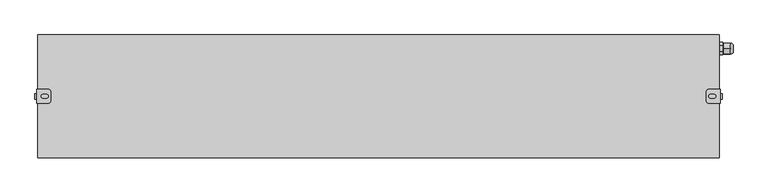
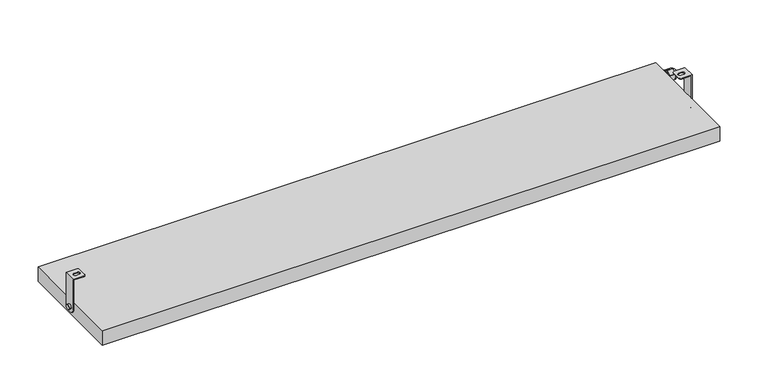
"""IFC4 building model written with IfcOpenShell, lengths in millimetres: light fixture geometry, GENILED_Светильник светодиодный_Titan Advanced : Titan Advanced 1000x180x25 100Вт IP66 Опал."""

from ifc_helpers import new_model, si_unit, point, frame, frame_2d, origin, origin_with_axes, place, context, project, spatial, polyline, circle_curve, ellipse_curve, trimmed, segment, composite_curve, outline, extrude, source, transform, mapped, element, save
from ifc_brep_helpers import plane_surface, cylinder_surface, revolved_surface, advanced_brep


def light_fixture_f0c51d83(model_context):
    return source(origin(), model_context, "Body", "SolidModel", [
        advanced_brep(
        [(-484.0, 10.0, 64.5), (-501.0, 10.0, 64.5), (-501.0, -10.0, 64.5), (-484.0, -10.0, 64.5), (-481.0, -7.0, 64.5), (-481.0, 7.0, 64.5), (-487.0, 2.75, 64.5), (-487.0, -2.75, 64.5), (-492.0, -2.75, 64.5), (-492.0, 2.75, 64.5), (-484.0, -10.0, 63.5), (-500.0, -10.0, 63.5), (-500.0, 10.0, 63.5), (-484.0, 10.0, 63.5), (-481.0, 7.0, 63.5), (-481.0, -7.0, 63.5), (-487.0, 2.75, 63.5), (-492.0, 2.75, 63.5), (-492.0, -2.75, 63.5), (-487.0, -2.75, 63.5), (-501.0, -10.0, 12.5), (-500.0, -10.0, 12.5), (-501.0, 10.0, 12.5), (-501.0, 2.0, 4.5), (-501.0, -2.0, 4.5), (-501.0, 4.0, 12.5), (-501.0, -4.0, 12.5), (-500.0, 10.0, 12.5), (-500.0, -2.0, 4.5), (-500.0, 2.0, 4.5), (-504.0, -4.0, 12.5), (-504.0, 4.0, 12.5)],
        [
            (0, 1),
            (1, 2),
            (2, 3),
            (3, 4, circle_curve(frame((-484.0, -7.0, 64.5), z_axis=(0.0, 0.0, 1.0), x_axis=(-1.0, 0.0, 0.0)), 3.0)),
            (4, 5),
            (5, 0, circle_curve(frame((-484.0, 7.0, 64.5), z_axis=(0.0, 0.0, 1.0), x_axis=(-1.0, 0.0, 0.0)), 3.0)),
            (6, 7, circle_curve(frame((-487.0, 0.0, 64.5), z_axis=(0.0, 0.0, -1.0), x_axis=(-1.0, 0.0, 0.0)), 2.75)),
            (7, 8),
            (8, 9, circle_curve(frame((-492.0, 0.0, 64.5), z_axis=(0.0, 0.0, -1.0), x_axis=(-1.0, 0.0, 0.0)), 2.75)),
            (9, 6),
            (10, 11),
            (11, 12),
            (12, 13),
            (13, 14, circle_curve(frame((-484.0, 7.0, 63.5), z_axis=(0.0, 0.0, -1.0), x_axis=(-1.0, 0.0, 0.0)), 3.0)),
            (14, 15),
            (15, 10, circle_curve(frame((-484.0, -7.0, 63.5), z_axis=(0.0, 0.0, -1.0), x_axis=(-1.0, 0.0, 0.0)), 3.0)),
            (16, 17),
            (17, 18, circle_curve(frame((-492.0, 0.0, 63.5), z_axis=(0.0, 0.0, 1.0), x_axis=(-1.0, 0.0, 0.0)), 2.75)),
            (18, 19),
            (19, 16, circle_curve(frame((-487.0, 0.0, 63.5), z_axis=(0.0, 0.0, 1.0), x_axis=(-1.0, 0.0, 0.0)), 2.75)),
            (5, 14),
            (13, 0),
            (4, 15),
            (3, 10),
            (2, 20),
            (20, 21),
            (21, 11),
            (1, 22),
            (22, 23, circle_curve(frame((-501.0, 2.0, 12.5), z_axis=(-1.0, 0.0, 0.0), x_axis=(0.0, 1.0, 0.0)), 8.0)),
            (23, 24),
            (24, 20, circle_curve(frame((-501.0, -2.0, 12.5), z_axis=(-1.0, 0.0, 0.0), x_axis=(0.0, 1.0, 0.0)), 8.0)),
            (25, 26, circle_curve(frame((-501.0, 0.0, 12.5), z_axis=(1.0, 0.0, 0.0), x_axis=(0.0, 1.0, 0.0)), 4.0)),
            (26, 25, circle_curve(frame((-501.0, 0.0, 12.5), z_axis=(1.0, 0.0, 0.0), x_axis=(0.0, 1.0, 0.0)), 4.0)),
            (12, 27),
            (27, 22),
            (9, 17),
            (16, 6),
            (8, 18),
            (7, 19),
            (21, 28, circle_curve(frame((-500.0, -2.0, 12.5), z_axis=(1.0, 0.0, 0.0), x_axis=(0.0, 1.0, 0.0)), 8.0)),
            (28, 29),
            (29, 27, circle_curve(frame((-500.0, 2.0, 12.5), z_axis=(1.0, 0.0, 0.0), x_axis=(0.0, 1.0, 0.0)), 8.0)),
            (24, 28),
            (23, 29),
            (30, 31, circle_curve(frame((-504.0, 0.0, 12.5), z_axis=(-1.0, 0.0, 0.0), x_axis=(0.0, 1.0, 0.0)), 4.0)),
            (31, 30, circle_curve(frame((-504.0, 0.0, 12.5), z_axis=(-1.0, 0.0, 0.0), x_axis=(0.0, 1.0, 0.0)), 4.0)),
            (31, 25),
            (26, 30),
        ],
        [
            plane_surface(frame((-487.0, 7.0, 64.5), z_axis=(0.0, 0.0, 1.0), x_axis=(0.0, 1.0, 0.0))),
            plane_surface(frame((-487.0, 7.0, 63.5), z_axis=(0.0, 0.0, -1.0), x_axis=(0.0, -1.0, 0.0))),
            cylinder_surface(frame((-484.0, 7.0, 63.5), z_axis=(0.0, 0.0, 1.0), x_axis=(-1.0, 0.0, 0.0)), 3.0),
            plane_surface(frame((-481.0, 7.0, 64.5), z_axis=(1.0, 0.0, 0.0), x_axis=(0.0, 0.0, -1.0))),
            cylinder_surface(frame((-484.0, -7.0, 63.5), z_axis=(0.0, 0.0, 1.0), x_axis=(-1.0, 0.0, 0.0)), 3.0),
            plane_surface(frame((-484.0, -10.0, 64.5), z_axis=(0.0, -1.0, 0.0), x_axis=(0.0, 0.0, -1.0))),
            plane_surface(frame((-501.0, -10.0, 64.5), z_axis=(-1.0, 0.0, 0.0), x_axis=(0.0, 0.0, -1.0))),
            plane_surface(frame((-501.0, 10.0, 64.5), z_axis=(0.0, 1.0, 0.0), x_axis=(0.0, 0.0, -1.0))),
            plane_surface(frame((-487.0, 2.75, 64.5), z_axis=(0.0, -1.0, 0.0), x_axis=(0.0, 0.0, -1.0))),
            revolved_surface(polyline([(-494.75, 0.0, 63.5), (-494.75, 0.0, 64.5)]), (-492.0, 0.0, 12.5), (0.0, 0.0, -1.0)),
            plane_surface(frame((-492.0, -2.75, 64.5), z_axis=(0.0, 1.0, 0.0), x_axis=(0.0, 0.0, -1.0))),
            revolved_surface(polyline([(-489.75, 0.0, 63.5), (-489.75, 0.0, 64.5)]), (-487.0, 0.0, 12.5), (0.0, 0.0, -1.0)),
            plane_surface(frame((-500.0, -10.0, 64.5), z_axis=(1.0, 0.0, 0.0), x_axis=(0.0, 1.0, 0.0))),
            cylinder_surface(frame((-500.0, -2.0, 12.5), z_axis=(-1.0, 0.0, 0.0), x_axis=(0.0, 1.0, 0.0)), 8.0),
            plane_surface(frame((-501.0, -2.0, 4.5), z_axis=(0.0, 0.0, -1.0), x_axis=(1.0, 0.0, 0.0))),
            cylinder_surface(frame((-500.0, 2.0, 12.5), z_axis=(-1.0, 0.0, 0.0), x_axis=(0.0, 1.0, 0.0)), 8.0),
            plane_surface(frame((-504.0, 4.0, 12.5), z_axis=(-1.0, 0.0, 0.0), x_axis=(0.0, 0.0, 1.0))),
            cylinder_surface(frame((-501.0, 0.0, 12.5), z_axis=(-1.0, 0.0, 0.0), x_axis=(0.0, 1.0, 0.0)), 4.0),
        ],
        [
            (0, [[1, 2, 3, 4, 5, 6], [7, 8, 9, 10]]),
            (1, [[11, 12, 13, 14, 15, 16], [17, 18, 19, 20]]),
            (2, [[21, -14, 22, -6]]),
            (3, [[23, -15, -21, -5]]),
            (4, [[24, -16, -23, -4]]),
            (5, [[-3, 25, 26, 27, -11, -24]]),
            (6, [[28, 29, 30, 31, -25, -2], [32, 33]]),
            (7, [[-13, 34, 35, -28, -1, -22]]),
            (8, [[36, -17, 37, -10]]),
            (9, [[38, -18, -36, -9]]),
            (10, [[39, -19, -38, -8]]),
            (11, [[-37, -20, -39, -7]]),
            (12, [[-34, -12, -27, 40, 41, 42]]),
            (13, [[43, -40, -26, -31]]),
            (14, [[44, -41, -43, -30]]),
            (15, [[-35, -42, -44, -29]]),
            (16, [[45, 46]]),
            (17, [[47, -33, 48, -46]]),
            (17, [[-48, -32, -47, -45]]),
        ],
    ),
        advanced_brep(
        [(484.0, 10.0, 64.5), (481.0, 7.0, 64.5), (481.0, -7.0, 64.5), (484.0, -10.0, 64.5), (501.0, -10.0, 64.5), (501.0, 10.0, 64.5), (487.0, 2.75, 64.5), (492.0, 2.75, 64.5), (492.0, -2.75, 64.5), (487.0, -2.75, 64.5), (484.0, -10.0, 63.5), (481.0, -7.0, 63.5), (481.0, 7.0, 63.5), (484.0, 10.0, 63.5), (500.0, 10.0, 63.5), (500.0, -10.0, 63.5), (487.0, 2.75, 63.5), (487.0, -2.75, 63.5), (492.0, -2.75, 63.5), (492.0, 2.75, 63.5), (500.0, -10.0, 12.5), (501.0, -10.0, 12.5), (501.0, -2.0, 4.5), (501.0, 2.0, 4.5), (501.0, 10.0, 12.5), (501.0, 4.0, 12.5), (501.0, -4.0, 12.5), (500.0, 10.0, 12.5), (500.0, 2.0, 4.5), (500.0, -2.0, 4.5), (504.0, -4.0, 12.5), (504.0, 4.0, 12.5)],
        [
            (0, 1, circle_curve(frame((484.0, 7.0, 64.5), z_axis=(0.0, 0.0, 1.0), x_axis=(1.0, 0.0, 0.0)), 3.0)),
            (1, 2),
            (2, 3, circle_curve(frame((484.0, -7.0, 64.5), z_axis=(0.0, 0.0, 1.0), x_axis=(1.0, 0.0, 0.0)), 3.0)),
            (3, 4),
            (4, 5),
            (5, 0),
            (6, 7),
            (7, 8, circle_curve(frame((492.0, 0.0, 64.5), z_axis=(0.0, 0.0, -1.0), x_axis=(1.0, 0.0, 0.0)), 2.75)),
            (8, 9),
            (9, 6, circle_curve(frame((487.0, 0.0, 64.5), z_axis=(0.0, 0.0, -1.0), x_axis=(1.0, 0.0, 0.0)), 2.75)),
            (10, 11, circle_curve(frame((484.0, -7.0, 63.5), z_axis=(0.0, 0.0, -1.0), x_axis=(1.0, 0.0, 0.0)), 3.0)),
            (11, 12),
            (12, 13, circle_curve(frame((484.0, 7.0, 63.5), z_axis=(0.0, 0.0, -1.0), x_axis=(1.0, 0.0, 0.0)), 3.0)),
            (13, 14),
            (14, 15),
            (15, 10),
            (16, 17, circle_curve(frame((487.0, 0.0, 63.5), z_axis=(0.0, 0.0, 1.0), x_axis=(1.0, 0.0, 0.0)), 2.75)),
            (17, 18),
            (18, 19, circle_curve(frame((492.0, 0.0, 63.5), z_axis=(0.0, 0.0, 1.0), x_axis=(1.0, 0.0, 0.0)), 2.75)),
            (19, 16),
            (0, 13),
            (12, 1),
            (11, 2),
            (10, 3),
            (15, 20),
            (20, 21),
            (21, 4),
            (21, 22, circle_curve(frame((501.0, -2.0, 12.5), z_axis=(1.0, 0.0, 0.0), x_axis=(0.0, 1.0, 0.0)), 8.0)),
            (22, 23),
            (23, 24, circle_curve(frame((501.0, 2.0, 12.5), z_axis=(1.0, 0.0, 0.0), x_axis=(0.0, 1.0, 0.0)), 8.0)),
            (24, 5),
            (25, 26, circle_curve(frame((501.0, 0.0, 12.5), z_axis=(-1.0, 0.0, 0.0), x_axis=(0.0, 1.0, 0.0)), 4.0)),
            (26, 25, circle_curve(frame((501.0, 0.0, 12.5), z_axis=(-1.0, 0.0, 0.0), x_axis=(0.0, 1.0, 0.0)), 4.0)),
            (24, 27),
            (27, 14),
            (6, 16),
            (19, 7),
            (18, 8),
            (17, 9),
            (27, 28, circle_curve(frame((500.0, 2.0, 12.5), z_axis=(-1.0, 0.0, 0.0), x_axis=(0.0, 1.0, 0.0)), 8.0)),
            (28, 29),
            (29, 20, circle_curve(frame((500.0, -2.0, 12.5), z_axis=(-1.0, 0.0, 0.0), x_axis=(0.0, 1.0, 0.0)), 8.0)),
            (29, 22),
            (28, 23),
            (30, 31, circle_curve(frame((504.0, 0.0, 12.5), z_axis=(1.0, 0.0, 0.0), x_axis=(0.0, 1.0, 0.0)), 4.0)),
            (31, 30, circle_curve(frame((504.0, 0.0, 12.5), z_axis=(1.0, 0.0, 0.0), x_axis=(0.0, 1.0, 0.0)), 4.0)),
            (30, 26),
            (25, 31),
        ],
        [
            plane_surface(frame((487.0, 7.0, 64.5), z_axis=(0.0, 0.0, 1.0), x_axis=(0.0, 1.0, 0.0))),
            plane_surface(frame((487.0, 7.0, 63.5), z_axis=(0.0, 0.0, -1.0), x_axis=(0.0, -1.0, 0.0))),
            cylinder_surface(frame((484.0, 7.0, 63.5), z_axis=(0.0, 0.0, 1.0), x_axis=(1.0, 0.0, 0.0)), 3.0),
            plane_surface(frame((481.0, 7.0, 64.5), z_axis=(-1.0, 0.0, 0.0), x_axis=(0.0, 0.0, -1.0))),
            cylinder_surface(frame((484.0, -7.0, 63.5), z_axis=(0.0, 0.0, 1.0), x_axis=(1.0, 0.0, 0.0)), 3.0),
            plane_surface(frame((484.0, -10.0, 64.5), z_axis=(0.0, -1.0, 0.0), x_axis=(0.0, 0.0, -1.0))),
            plane_surface(frame((501.0, -10.0, 64.5), z_axis=(1.0, 0.0, 0.0), x_axis=(0.0, 0.0, -1.0))),
            plane_surface(frame((501.0, 10.0, 64.5), z_axis=(0.0, 1.0, 0.0), x_axis=(0.0, 0.0, -1.0))),
            plane_surface(frame((487.0, 2.75, 64.5), z_axis=(0.0, -1.0, 0.0), x_axis=(0.0, 0.0, -1.0))),
            revolved_surface(polyline([(494.75, 0.0, 63.5), (494.75, 0.0, 64.5)]), (492.0, 0.0, 12.5), (0.0, 0.0, -1.0)),
            plane_surface(frame((492.0, -2.75, 64.5), z_axis=(0.0, 1.0, 0.0), x_axis=(0.0, 0.0, -1.0))),
            revolved_surface(polyline([(489.75, 0.0, 63.5), (489.75, 0.0, 64.5)]), (487.0, 0.0, 12.5), (0.0, 0.0, -1.0)),
            plane_surface(frame((500.0, -10.0, 64.5), z_axis=(-1.0, 0.0, 0.0), x_axis=(0.0, 1.0, 0.0))),
            cylinder_surface(frame((500.0, -2.0, 12.5), z_axis=(1.0, 0.0, 0.0), x_axis=(0.0, 1.0, 0.0)), 8.0),
            plane_surface(frame((501.0, -2.0, 4.5), z_axis=(0.0, 0.0, -1.0), x_axis=(-1.0, 0.0, 0.0))),
            cylinder_surface(frame((500.0, 2.0, 12.5), z_axis=(1.0, 0.0, 0.0), x_axis=(0.0, 1.0, 0.0)), 8.0),
            plane_surface(frame((504.0, 4.0, 12.5), z_axis=(1.0, 0.0, 0.0), x_axis=(0.0, 0.0, 1.0))),
            cylinder_surface(frame((501.0, 0.0, 12.5), z_axis=(1.0, 0.0, 0.0), x_axis=(0.0, 1.0, 0.0)), 4.0),
        ],
        [
            (0, [[1, 2, 3, 4, 5, 6], [7, 8, 9, 10]]),
            (1, [[11, 12, 13, 14, 15, 16], [17, 18, 19, 20]]),
            (2, [[-1, 21, -13, 22]]),
            (3, [[-2, -22, -12, 23]]),
            (4, [[-3, -23, -11, 24]]),
            (5, [[-24, -16, 25, 26, 27, -4]]),
            (6, [[-5, -27, 28, 29, 30, 31], [32, 33]]),
            (7, [[-21, -6, -31, 34, 35, -14]]),
            (8, [[-7, 36, -20, 37]]),
            (9, [[-8, -37, -19, 38]]),
            (10, [[-9, -38, -18, 39]]),
            (11, [[-10, -39, -17, -36]]),
            (12, [[40, 41, 42, -25, -15, -35]]),
            (13, [[-28, -26, -42, 43]]),
            (14, [[-29, -43, -41, 44]]),
            (15, [[-30, -44, -40, -34]]),
            (16, [[45, 46]]),
            (17, [[-45, 47, -32, 48]]),
            (17, [[-46, -48, -33, -47]]),
        ],
    ),
        advanced_brep(
        [(520.0120269, 64.15, 12.5), (520.0120269, 75.85, 12.5), (520.0120269, 73.5, 12.5), (520.0120269, 66.5, 12.5), (516.0120269, 62.0, 12.5), (516.0120269, 66.0, 5.5717968), (516.0120269, 74.0, 5.5717968), (516.0120269, 78.0, 12.5), (516.0120269, 74.0, 19.4282032), (516.0120269, 66.0, 19.4282032), (516.0120269, 73.5, 12.5), (516.0120269, 66.5, 12.5), (516.0120269, 62.0, 8.3768944), (516.0120269, 62.4292858, 7.6333496), (516.0120269, 69.5707142, 3.510244), (516.0120269, 70.4292858, 3.510244), (516.0120269, 77.5707142, 7.6333496), (516.0120269, 78.0, 8.3768944), (516.0120269, 78.0, 16.6231056), (516.0120269, 77.5707142, 17.3666504), (516.0120269, 70.4292858, 21.489756), (516.0120269, 69.5707142, 21.489756), (516.0120269, 62.4292858, 17.3666504), (516.0120269, 62.0, 16.6231056), (506.6, 69.5707142, 3.510244), (506.6, 62.4292858, 7.6333496), (506.6, 62.0, 8.3768944), (506.6, 62.0, 16.6231056), (506.6, 62.4292858, 17.3666504), (506.6, 69.5707142, 21.489756), (506.6, 70.4292858, 21.489756), (506.6, 77.5707142, 17.3666504), (506.6, 78.0, 16.6231056), (506.6, 78.0, 8.3768944), (506.6, 77.5707142, 7.6333496), (506.6, 70.4292858, 3.510244), (506.6, 77.25, 12.5), (506.6, 62.75, 12.5), (504.6, 77.25, 12.5), (504.6, 62.75, 12.5), (504.6, 78.989756, 12.9292858), (504.6, 74.8666504, 20.0707142), (504.6, 74.1231056, 20.5), (504.6, 65.8768944, 20.5), (504.6, 65.1333496, 20.0707142), (504.6, 61.010244, 12.9292858), (504.6, 61.0, 12.5), (504.6, 61.010244, 12.0707142), (504.6, 65.1333496, 4.9292858), (504.6, 65.8768944, 4.5), (504.6, 74.1231056, 4.5), (504.6, 74.8666504, 4.9292858), (504.6, 78.989756, 12.0707142), (504.6, 79.0, 12.5), (500.0, 78.989756, 12.0707142), (500.0, 74.8666504, 4.9292858), (500.0, 74.1231056, 4.5), (500.0, 65.8768944, 4.5), (500.0, 65.1333496, 4.9292858), (500.0, 61.010244, 12.0707142), (500.0, 61.0, 12.5), (500.0, 61.010244, 12.9292858), (500.0, 65.1333496, 20.0707142), (500.0, 65.8768944, 20.5), (500.0, 74.1231056, 20.5), (500.0, 74.8666504, 20.0707142), (500.0, 78.989756, 12.9292858), (500.0, 79.0, 12.5)],
        [
            (0, 1, circle_curve(frame((520.0120269, 70.0, 12.5), z_axis=(1.0, 0.0, 0.0), x_axis=(0.0, 1.0, 0.0)), 5.85)),
            (1, 2),
            (2, 3, circle_curve(frame((520.0120269, 70.0, 12.5), z_axis=(-1.0, 0.0, 0.0), x_axis=(0.0, 1.0, 0.0)), 3.5)),
            (3, 0),
            (1, 0, circle_curve(frame((520.0120269, 70.0, 12.5), z_axis=(1.0, 0.0, 0.0), x_axis=(0.0, 1.0, 0.0)), 5.85)),
            (3, 2, circle_curve(frame((520.0120269, 70.0, 12.5), z_axis=(-1.0, 0.0, 0.0), x_axis=(0.0, 1.0, 0.0)), 3.5)),
            (0, 4, circle_curve(frame((515.6269324, 67.5123851, 12.5), z_axis=(0.0, 0.0, -1.0), x_axis=(0.0, 1.0, 0.0)), 5.5258201)),
            (4, 5, circle_curve(frame((516.0120269, 70.0, 12.5), z_axis=(1.0, 0.0, 0.0), x_axis=(0.0, 1.0, 0.0)), 8.0)),
            (5, 6, circle_curve(frame((516.0120269, 70.0, 12.5), z_axis=(1.0, 0.0, 0.0), x_axis=(0.0, 1.0, 0.0)), 8.0)),
            (6, 7, circle_curve(frame((516.0120269, 70.0, 12.5), z_axis=(1.0, 0.0, 0.0), x_axis=(0.0, 1.0, 0.0)), 8.0)),
            (7, 1, circle_curve(frame((515.6269324, 72.4876149, 12.5), z_axis=(0.0, 0.0, -1.0), x_axis=(0.0, -1.0, 0.0)), 5.5258201)),
            (7, 8, circle_curve(frame((516.0120269, 70.0, 12.5), z_axis=(1.0, 0.0, 0.0), x_axis=(0.0, 1.0, 0.0)), 8.0)),
            (8, 9, circle_curve(frame((516.0120269, 70.0, 12.5), z_axis=(1.0, 0.0, 0.0), x_axis=(0.0, 1.0, 0.0)), 8.0)),
            (9, 4, circle_curve(frame((516.0120269, 70.0, 12.5), z_axis=(1.0, 0.0, 0.0), x_axis=(0.0, 1.0, 0.0)), 8.0)),
            (2, 10),
            (10, 11, circle_curve(frame((516.0120269, 70.0, 12.5), z_axis=(-1.0, 0.0, 0.0), x_axis=(0.0, 1.0, 0.0)), 3.5)),
            (11, 3),
            (11, 10, circle_curve(frame((516.0120269, 70.0, 12.5), z_axis=(-1.0, 0.0, 0.0), x_axis=(0.0, 1.0, 0.0)), 3.5)),
            (4, 12),
            (12, 13, circle_curve(frame((516.0120269, 70.0, 12.5), z_axis=(1.0, 0.0, 0.0), x_axis=(0.0, -1.0, 0.0)), 9.0)),
            (13, 5),
            (5, 14),
            (14, 15, circle_curve(frame((516.0120269, 70.0, 12.5), z_axis=(1.0, 0.0, 0.0), x_axis=(0.0, -1.0, 0.0)), 9.0)),
            (15, 6),
            (6, 16),
            (16, 17, circle_curve(frame((516.0120269, 70.0, 12.5), z_axis=(1.0, 0.0, 0.0), x_axis=(0.0, -1.0, 0.0)), 9.0)),
            (17, 7),
            (7, 18),
            (18, 19, circle_curve(frame((516.0120269, 70.0, 12.5), z_axis=(1.0, 0.0, 0.0), x_axis=(0.0, -1.0, 0.0)), 9.0)),
            (19, 8),
            (8, 20),
            (20, 21, circle_curve(frame((516.0120269, 70.0, 12.5), z_axis=(1.0, 0.0, 0.0), x_axis=(0.0, -1.0, 0.0)), 9.0)),
            (21, 9),
            (9, 22),
            (22, 23, circle_curve(frame((516.0120269, 70.0, 12.5), z_axis=(1.0, 0.0, 0.0), x_axis=(0.0, -1.0, 0.0)), 9.0)),
            (23, 4),
            (24, 25),
            (25, 26, circle_curve(frame((506.6, 70.0, 12.5), z_axis=(-1.0, 0.0, 0.0), x_axis=(0.0, -1.0, 0.0)), 9.0)),
            (26, 27),
            (27, 28, circle_curve(frame((506.6, 70.0, 12.5), z_axis=(-1.0, 0.0, 0.0), x_axis=(0.0, -1.0, 0.0)), 9.0)),
            (28, 29),
            (29, 30, circle_curve(frame((506.6, 70.0, 12.5), z_axis=(-1.0, 0.0, 0.0), x_axis=(0.0, -1.0, 0.0)), 9.0)),
            (30, 31),
            (31, 32, circle_curve(frame((506.6, 70.0, 12.5), z_axis=(-1.0, 0.0, 0.0), x_axis=(0.0, -1.0, 0.0)), 9.0)),
            (32, 33),
            (33, 34, circle_curve(frame((506.6, 70.0, 12.5), z_axis=(-1.0, 0.0, 0.0), x_axis=(0.0, -1.0, 0.0)), 9.0)),
            (34, 35),
            (35, 24, circle_curve(frame((506.6, 70.0, 12.5), z_axis=(-1.0, 0.0, 0.0), x_axis=(0.0, -1.0, 0.0)), 9.0)),
            (36, 37, circle_curve(frame((506.6, 70.0, 12.5), z_axis=(1.0, 0.0, 0.0), x_axis=(0.0, -1.0, 0.0)), 7.25)),
            (37, 36, circle_curve(frame((506.6, 70.0, 12.5), z_axis=(1.0, 0.0, 0.0), x_axis=(0.0, -1.0, 0.0)), 7.25)),
            (15, 35),
            (34, 16),
            (17, 33),
            (32, 18),
            (19, 31),
            (30, 20),
            (21, 29),
            (28, 22),
            (23, 27),
            (26, 12),
            (13, 25),
            (24, 14),
            (36, 38),
            (38, 39, circle_curve(frame((504.6, 70.0, 12.5), z_axis=(1.0, 0.0, 0.0), x_axis=(0.0, -1.0, 0.0)), 7.25)),
            (39, 37),
            (39, 38, circle_curve(frame((504.6, 70.0, 12.5), z_axis=(1.0, 0.0, 0.0), x_axis=(0.0, -1.0, 0.0)), 7.25)),
            (40, 41),
            (41, 42, circle_curve(frame((504.6, 70.0, 12.5), z_axis=(1.0, 0.0, 0.0), x_axis=(0.0, -1.0, 0.0)), 9.0)),
            (42, 43),
            (43, 44, circle_curve(frame((504.6, 70.0, 12.5), z_axis=(1.0, 0.0, 0.0), x_axis=(0.0, -1.0, 0.0)), 9.0)),
            (44, 45),
            (45, 46, circle_curve(frame((504.6, 70.0, 12.5), z_axis=(1.0, 0.0, 0.0), x_axis=(0.0, -1.0, 0.0)), 9.0)),
            (46, 47, circle_curve(frame((504.6, 70.0, 12.5), z_axis=(1.0, 0.0, 0.0), x_axis=(0.0, -1.0, 0.0)), 9.0)),
            (47, 48),
            (48, 49, circle_curve(frame((504.6, 70.0, 12.5), z_axis=(1.0, 0.0, 0.0), x_axis=(0.0, -1.0, 0.0)), 9.0)),
            (49, 50),
            (50, 51, circle_curve(frame((504.6, 70.0, 12.5), z_axis=(1.0, 0.0, 0.0), x_axis=(0.0, -1.0, 0.0)), 9.0)),
            (51, 52),
            (52, 53, circle_curve(frame((504.6, 70.0, 12.5), z_axis=(1.0, 0.0, 0.0), x_axis=(0.0, -1.0, 0.0)), 9.0)),
            (53, 40, circle_curve(frame((504.6, 70.0, 12.5), z_axis=(1.0, 0.0, 0.0), x_axis=(0.0, -1.0, 0.0)), 9.0)),
            (54, 55),
            (55, 56, circle_curve(frame((500.0, 70.0, 12.5), z_axis=(-1.0, 0.0, 0.0), x_axis=(0.0, -1.0, 0.0)), 9.0)),
            (56, 57),
            (57, 58, circle_curve(frame((500.0, 70.0, 12.5), z_axis=(-1.0, 0.0, 0.0), x_axis=(0.0, -1.0, 0.0)), 9.0)),
            (58, 59),
            (59, 60, circle_curve(frame((500.0, 70.0, 12.5), z_axis=(-1.0, 0.0, 0.0), x_axis=(0.0, -1.0, 0.0)), 9.0)),
            (60, 61, circle_curve(frame((500.0, 70.0, 12.5), z_axis=(-1.0, 0.0, 0.0), x_axis=(0.0, -1.0, 0.0)), 9.0)),
            (61, 62),
            (62, 63, circle_curve(frame((500.0, 70.0, 12.5), z_axis=(-1.0, 0.0, 0.0), x_axis=(0.0, -1.0, 0.0)), 9.0)),
            (63, 64),
            (64, 65, circle_curve(frame((500.0, 70.0, 12.5), z_axis=(-1.0, 0.0, 0.0), x_axis=(0.0, -1.0, 0.0)), 9.0)),
            (65, 66),
            (66, 67, circle_curve(frame((500.0, 70.0, 12.5), z_axis=(-1.0, 0.0, 0.0), x_axis=(0.0, -1.0, 0.0)), 9.0)),
            (67, 54, circle_curve(frame((500.0, 70.0, 12.5), z_axis=(-1.0, 0.0, 0.0), x_axis=(0.0, -1.0, 0.0)), 9.0)),
            (40, 66),
            (65, 41),
            (42, 64),
            (63, 43),
            (44, 62),
            (61, 45),
            (47, 59),
            (58, 48),
            (49, 57),
            (56, 50),
            (51, 55),
            (54, 52),
            (67, 53),
            (46, 60),
        ],
        [
            plane_surface(frame((520.0120269, 70.0, 12.5), z_axis=(1.0, 0.0, 0.0), x_axis=(0.0, 1.0, 0.0))),
            revolved_surface(trimmed(ellipse_curve(frame((515.6269324, 72.4876149, 12.5), z_axis=(0.0, 0.0, 1.0), x_axis=(0.0, -1.0, 0.0)), 5.5258201, 5.5258201), [point((520.0120269, 75.85, 12.5))], [point((516.0120269, 78.0, 12.5))], True, "CARTESIAN"), (516.0120269, 70.0, 12.5), (-1.0, 0.0, 0.0)),
            revolved_surface(polyline([(516.0120269, 73.5, 12.5), (520.0120269, 73.5, 12.5)]), (516.0120269, 70.0, 12.5), (-1.0, 0.0, 0.0)),
            plane_surface(frame((516.0120269, 70.0, 3.2623957), z_axis=(1.0000000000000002, 0.0, 0.0), x_axis=(0.0, 0.8660254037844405, 0.49999999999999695))),
            plane_surface(frame((506.6, 70.0, 3.2623957), z_axis=(-1.0000000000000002, 0.0, 0.0), x_axis=(0.0, -0.8660254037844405, -0.49999999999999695))),
            plane_surface(frame((516.0120269, 70.0, 3.2623957), z_axis=(0.0, 0.49999999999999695, -0.8660254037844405), x_axis=(-1.0, 0.0, 0.0))),
            plane_surface(frame((516.0120269, 78.0, 7.8811978), z_axis=(0.0, 1.0, 0.0), x_axis=(-1.0, 0.0, 0.0))),
            plane_surface(frame((516.0120269, 78.0, 17.1188022), z_axis=(0.0, 0.5000000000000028, 0.8660254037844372), x_axis=(-1.0, 0.0, 0.0))),
            plane_surface(frame((516.0120269, 70.0, 21.7376043), z_axis=(0.0, -0.49999999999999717, 0.8660254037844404), x_axis=(-1.0, 0.0, 0.0))),
            plane_surface(frame((516.0120269, 62.0, 17.1188022), z_axis=(0.0, -1.0, 0.0), x_axis=(-1.0, 0.0, 0.0))),
            plane_surface(frame((516.0120269, 62.0, 7.8811978), z_axis=(0.0, -0.5000000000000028, -0.8660254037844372), x_axis=(-1.0, 0.0, 0.0))),
            cylinder_surface(frame((504.6, 70.0, 12.5), z_axis=(1.0, 0.0, 0.0), x_axis=(0.0, -1.0, 0.0)), 7.25),
            plane_surface(frame((504.6, 79.2376043, 12.5), z_axis=(1.0, 0.0, 0.0), x_axis=(0.0, -0.5000000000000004, 0.8660254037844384))),
            plane_surface(frame((500.0, 79.2376043, 12.5), z_axis=(-1.0, 0.0, 0.0), x_axis=(0.0, 0.5000000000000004, -0.8660254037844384))),
            plane_surface(frame((504.6, 79.2376043, 12.5), z_axis=(0.0, 0.8660254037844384, 0.5000000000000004), x_axis=(-1.0, 0.0, 0.0))),
            plane_surface(frame((504.6, 74.6188022, 20.5), z_axis=(0.0, 0.0, 1.0), x_axis=(-1.0, 0.0, 0.0))),
            plane_surface(frame((504.6, 65.3811978, 20.5), z_axis=(0.0, -0.866025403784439, 0.49999999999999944), x_axis=(-1.0, 0.0, 0.0))),
            plane_surface(frame((504.6, 60.7623957, 12.5), z_axis=(0.0, -0.8660254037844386, -0.5000000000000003), x_axis=(-1.0, 0.0, 0.0))),
            plane_surface(frame((504.6, 65.3811978, 4.5), z_axis=(0.0, 0.0, -1.0), x_axis=(-1.0, 0.0, 0.0))),
            plane_surface(frame((504.6, 74.6188022, 4.5), z_axis=(0.0, 0.8660254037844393, -0.49999999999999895), x_axis=(-1.0, 0.0, 0.0))),
            cylinder_surface(frame((500.0, 70.0, 12.5), z_axis=(-1.0, 0.0, 0.0), x_axis=(0.0, -1.0, 0.0)), 9.0),
        ],
        [
            (0, [[1, 2, 3, 4]]),
            (0, [[-2, 5, -4, 6]]),
            (1, [[-1, 7, 8, 9, 10, 11]]),
            (1, [[-5, -11, 12, 13, 14, -7]]),
            (2, [[-3, 15, 16, 17]]),
            (2, [[-6, -17, 18, -15]]),
            (3, [[-8, 19, 20, 21]]),
            (3, [[-9, 22, 23, 24]]),
            (3, [[-10, 25, 26, 27]]),
            (3, [[-12, 28, 29, 30]]),
            (3, [[-13, 31, 32, 33]]),
            (3, [[-14, 34, 35, 36]]),
            (3, [[-16, -18]]),
            (4, [[37, 38, 39, 40, 41, 42, 43, 44, 45, 46, 47, 48], [49, 50]]),
            (5, [[-25, -24, 51, -47, 52]]),
            (6, [[-27, 53, -45, 54, -28]]),
            (7, [[-30, 55, -43, 56, -31]]),
            (8, [[-34, -33, 57, -41, 58]]),
            (9, [[-36, 59, -39, 60, -19]]),
            (10, [[-21, 61, -37, 62, -22]]),
            (11, [[63, 64, 65, -49]]),
            (11, [[-63, -50, -65, 66]]),
            (12, [[67, 68, 69, 70, 71, 72, 73, 74, 75, 76, 77, 78, 79, 80], [-64, -66]]),
            (13, [[81, 82, 83, 84, 85, 86, 87, 88, 89, 90, 91, 92, 93, 94]]),
            (14, [[-67, 95, -92, 96]]),
            (15, [[-69, 97, -90, 98]]),
            (16, [[-71, 99, -88, 100]]),
            (17, [[-74, 101, -85, 102]]),
            (18, [[-76, 103, -83, 104]]),
            (19, [[-78, 105, -81, 106]]),
            (20, [[-20, -60, -38, -61]]),
            (20, [[-23, -62, -48, -51]]),
            (20, [[-26, -52, -46, -53]]),
            (20, [[-75, -102, -84, -103]]),
            (20, [[-77, -104, -82, -105]]),
            (20, [[107, -79, -106, -94]]),
            (20, [[108, -86, -101, -73]]),
            (20, [[-29, -54, -44, -55]]),
            (20, [[-32, -56, -42, -57]]),
            (20, [[-35, -58, -40, -59]]),
            (20, [[-68, -96, -91, -97]]),
            (20, [[-70, -98, -89, -99]]),
            (20, [[-107, -93, -95, -80]]),
            (20, [[-108, -72, -100, -87]]),
        ],
    ),
        advanced_brep(
        [(500.0, 90.0, 25.0), (-500.0, 90.0, 25.0), (-500.0, -90.0, 25.0), (500.0, -90.0, 25.0), (500.0, 90.0, 0.0), (500.0, -90.0, 0.0), (-500.0, -90.0, 0.0), (-500.0, 90.0, 0.0), (470.0, 75.0, 0.0), (-470.0, 75.0, 0.0), (-485.0, 60.0, 0.0), (-485.0, -60.0, 0.0), (-470.0, -75.0, 0.0), (470.0, -75.0, 0.0), (485.0, -60.0, 0.0), (485.0, 60.0, 0.0), (485.0, 60.0, 5.0), (470.0, 75.0, 5.0), (485.0, -60.0, 5.0), (470.0, -75.0, 5.0), (-470.0, -75.0, 5.0), (-485.0, -60.0, 5.0), (-485.0, 60.0, 5.0), (-470.0, 75.0, 5.0)],
        [
            (0, 1),
            (1, 2),
            (2, 3),
            (3, 0),
            (4, 5),
            (5, 6),
            (6, 7),
            (7, 4),
            (8, 9),
            (9, 10, circle_curve(frame((-470.0, 60.0, 0.0), z_axis=(0.0, 0.0, 1.0), x_axis=(1.0, 0.0, 0.0)), 15.0)),
            (10, 11),
            (11, 12, circle_curve(frame((-470.0, -60.0, 0.0), z_axis=(0.0, 0.0, 1.0), x_axis=(1.0, 0.0, 0.0)), 15.0)),
            (12, 13),
            (13, 14, circle_curve(frame((470.0, -60.0, 0.0), z_axis=(0.0, 0.0, 1.0), x_axis=(1.0, 0.0, 0.0)), 15.0)),
            (14, 15),
            (15, 8, circle_curve(frame((470.0, 60.0, 0.0), z_axis=(0.0, 0.0, 1.0), x_axis=(1.0, 0.0, 0.0)), 15.0)),
            (0, 4),
            (7, 1),
            (6, 2),
            (5, 3),
            (15, 16),
            (16, 17, circle_curve(frame((470.0, 60.0, 5.0), z_axis=(0.0, 0.0, 1.0), x_axis=(1.0, 0.0, 0.0)), 15.0)),
            (17, 8),
            (14, 18),
            (18, 16),
            (13, 19),
            (19, 18, circle_curve(frame((470.0, -60.0, 5.0), z_axis=(0.0, 0.0, 1.0), x_axis=(1.0, 0.0, 0.0)), 15.0)),
            (12, 20),
            (20, 19),
            (11, 21),
            (21, 20, circle_curve(frame((-470.0, -60.0, 5.0), z_axis=(0.0, 0.0, 1.0), x_axis=(1.0, 0.0, 0.0)), 15.0)),
            (10, 22),
            (22, 21),
            (9, 23),
            (23, 22, circle_curve(frame((-470.0, 60.0, 5.0), z_axis=(0.0, 0.0, 1.0), x_axis=(1.0, 0.0, 0.0)), 15.0)),
            (17, 23),
        ],
        [
            plane_surface(frame((-500.0, 90.0, 25.0), z_axis=(0.0, 0.0, 1.0), x_axis=(-1.0, 0.0, 0.0))),
            plane_surface(frame((-500.0, 90.0, 0.0), z_axis=(0.0, 0.0, -1.0), x_axis=(1.0, 0.0, 0.0))),
            plane_surface(frame((500.0, 90.0, 25.0), z_axis=(0.0, 1.0, 0.0), x_axis=(0.0, 0.0, -1.0))),
            plane_surface(frame((-500.0, 90.0, 25.0), z_axis=(-1.0, 0.0, 0.0), x_axis=(0.0, 0.0, -1.0))),
            plane_surface(frame((-500.0, -90.0, 25.0), z_axis=(0.0, -1.0, 0.0), x_axis=(0.0, 0.0, -1.0))),
            plane_surface(frame((500.0, -90.0, 25.0), z_axis=(1.0, 0.0, 0.0), x_axis=(0.0, 0.0, -1.0))),
            revolved_surface(polyline([(485.0, 60.0, 0.0), (485.0, 60.0, 5.0)]), (470.0, 60.0, 0.0), (0.0, 0.0, -1.0)),
            plane_surface(frame((485.0, 60.0, 25.0), z_axis=(-1.0, 0.0, 0.0), x_axis=(0.0, 0.0, -1.0))),
            revolved_surface(polyline([(485.0, -60.0, 0.0), (485.0, -60.0, 5.0)]), (470.0, -60.0, 0.0), (0.0, 0.0, -1.0)),
            plane_surface(frame((470.0, -75.0, 25.0), z_axis=(0.0, 1.0, 0.0), x_axis=(0.0, 0.0, -1.0))),
            revolved_surface(polyline([(-455.0, -60.0, 0.0), (-455.0, -60.0, 5.0)]), (-470.0, -60.0, 0.0), (0.0, 0.0, -1.0)),
            plane_surface(frame((-485.0, -60.0, 25.0), z_axis=(1.0, 0.0, 0.0), x_axis=(0.0, 0.0, -1.0))),
            revolved_surface(polyline([(-455.0, 60.0, 0.0), (-455.0, 60.0, 5.0)]), (-470.0, 60.0, 0.0), (0.0, 0.0, -1.0)),
            plane_surface(frame((-470.0, 75.0, 25.0), z_axis=(0.0, -1.0, 0.0), x_axis=(0.0, 0.0, -1.0))),
            plane_surface(frame((-470.0, 75.0, 5.0), z_axis=(0.0, 0.0, -1.0), x_axis=(1.0, 0.0, 0.0))),
        ],
        [
            (0, [[1, 2, 3, 4]]),
            (1, [[5, 6, 7, 8], [9, 10, 11, 12, 13, 14, 15, 16]]),
            (2, [[-1, 17, -8, 18]]),
            (3, [[-2, -18, -7, 19]]),
            (4, [[-3, -19, -6, 20]]),
            (5, [[-4, -20, -5, -17]]),
            (6, [[-16, 21, 22, 23]]),
            (7, [[-15, 24, 25, -21]]),
            (8, [[-14, 26, 27, -24]]),
            (9, [[-13, 28, 29, -26]]),
            (10, [[-12, 30, 31, -28]]),
            (11, [[-11, 32, 33, -30]]),
            (12, [[-10, 34, 35, -32]]),
            (13, [[-9, -23, 36, -34]]),
            (14, [[-22, -25, -27, -29, -31, -33, -35, -36]]),
        ],
    ),
        extrude(outline(composite_curve([segment(trimmed(circle_curve(frame_2d((470.0, 60.0)), 15.0), [point((470.0, 75.0))], [point((485.0, 60.0))], False, "CARTESIAN"), True, "CONTINUOUS"), segment(polyline([(485.0, 60.0), (485.0, -60.0)]), True, "CONTINUOUS"), segment(trimmed(circle_curve(frame_2d((470.0, -60.0)), 15.0), [point((485.0, -60.0))], [point((470.0, -75.0))], False, "CARTESIAN"), True, "CONTINUOUS"), segment(polyline([(470.0, -75.0), (-470.0, -75.0)]), True, "CONTINUOUS"), segment(trimmed(circle_curve(frame_2d((-470.0, -60.0)), 15.0), [point((-470.0, -75.0))], [point((-485.0, -60.0))], False, "CARTESIAN"), True, "CONTINUOUS"), segment(polyline([(-485.0, -60.0), (-485.0, 60.0)]), True, "CONTINUOUS"), segment(trimmed(circle_curve(frame_2d((-470.0, 60.0)), 15.0), [point((-485.0, 60.0))], [point((-470.0, 75.0))], False, "CARTESIAN"), True, "CONTINUOUS"), segment(polyline([(-470.0, 75.0), (470.0, 75.0)]), True, "CONTINUOUS")], self_intersect=False)), origin_with_axes(), (0.0, 0.0, 1.0), 5.0),
    ])


if __name__ == "__main__":
    model = new_model("IFC4")
    model_context = context("Model", 3, world=origin())
    ifc_project = project(units=[si_unit("LENGTHUNIT", "METRE", prefix="MILLI")], contexts=[model_context])
    site = spatial("IfcSite", under=ifc_project)
    building = spatial("IfcBuilding", under=site)
    placement = place(None, origin())
    light_fixture_shape = light_fixture_f0c51d83(model_context)
    element("IfcLightFixture", 1, ObjectType="GENILED_Светильник светодиодный_Titan Advanced : Titan Advanced 1000x180x25 100Вт IP66 Опал", at=placement, inside=building, context=model_context, shape_type="MappedRepresentation", body=[
        mapped(light_fixture_shape, transform((0.0, 0.0, 0.0), x_axis=(1.0, 0.0, 0.0), y_axis=(0.0, 1.0, 0.0), z_axis=(0.0, 0.0, 1.0))),
    ])
    save(model, "model.ifc")
